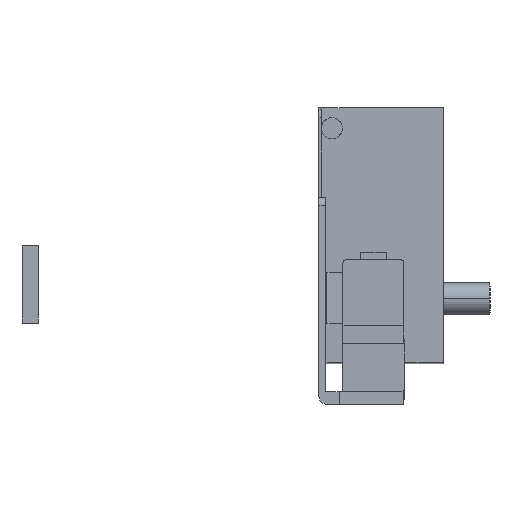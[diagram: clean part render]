
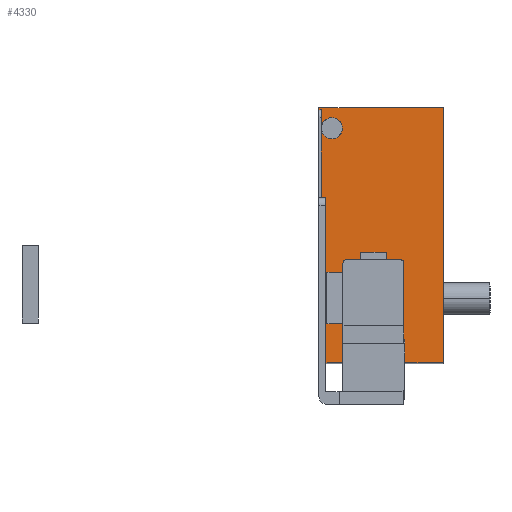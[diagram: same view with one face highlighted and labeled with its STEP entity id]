
A CAD part, front view. The second image highlights one B-rep face of the part: STEP entity #4330.
In plain terms, the highlighted planar face has unit normal (0, -1, 0.007).
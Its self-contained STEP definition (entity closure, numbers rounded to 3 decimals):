
#159 = CIRCLE ( 'NONE', #1425, 1. ) ;
#161 = CIRCLE ( 'NONE', #1426, 1. ) ;
#163 = LINE ( 'NONE', #2033, #164 ) ;
#164 = VECTOR ( 'NONE', #2034, 1000. ) ;
#165 = LINE ( 'NONE', #2035, #166 ) ;
#166 = VECTOR ( 'NONE', #2036, 1000. ) ;
#167 = LINE ( 'NONE', #2037, #168 ) ;
#168 = VECTOR ( 'NONE', #2038, 1000. ) ;
#169 = LINE ( 'NONE', #2039, #170 ) ;
#170 = VECTOR ( 'NONE', #2040, 1000. ) ;
#171 = LINE ( 'NONE', #2041, #172 ) ;
#172 = VECTOR ( 'NONE', #2042, 1000. ) ;
#173 = LINE ( 'NONE', #2043, #174 ) ;
#174 = VECTOR ( 'NONE', #2044, 1000. ) ;
#175 = LINE ( 'NONE', #2045, #176 ) ;
#176 = VECTOR ( 'NONE', #2046, 1000. ) ;
#177 = LINE ( 'NONE', #2047, #178 ) ;
#178 = VECTOR ( 'NONE', #2048, 1000. ) ;
#386 = FACE_OUTER_BOUND ( 'NONE', #3469, .T. ) ;
#583 = DIRECTION ( 'NONE',  ( 0., 0.007, 1. ) ) ;
#585 = CARTESIAN_POINT ( 'NONE',  ( 7.25, 370.948, -16.438 ) ) ;
#600 = DIRECTION ( 'NONE',  ( 0., 0.007, 1. ) ) ;
#603 = CARTESIAN_POINT ( 'NONE',  ( 26.75, 370.948, -16.438 ) ) ;
#668 = CARTESIAN_POINT ( 'NONE',  ( 38.8, 371.346, 42.873 ) ) ;
#683 = CARTESIAN_POINT ( 'NONE',  ( 26.75, 370.814, -36.566 ) ) ;
#694 = CARTESIAN_POINT ( 'NONE',  ( 26.75, 370.842, -32.283 ) ) ;
#712 = CARTESIAN_POINT ( 'NONE',  ( 7.25, 370.814, -36.566 ) ) ;
#776 = CARTESIAN_POINT ( 'NONE',  ( 38.8, 370.814, -36.566 ) ) ;
#799 = CARTESIAN_POINT ( 'NONE',  ( 7.25, 370.842, -32.283 ) ) ;
#863 = EDGE_CURVE ( 'NONE', #5012, #4905, #3672, .T. ) ;
#894 = EDGE_CURVE ( 'NONE', #5307, #5199, #3732, .T. ) ;
#1030 = EDGE_CURVE ( 'NONE', #5214, #5225, #3956, .T. ) ;
#1036 = EDGE_CURVE ( 'NONE', #5243, #5330, #3965, .T. ) ;
#1259 = EDGE_CURVE ( 'NONE', #5012, #5225, #159, .T. ) ;
#1260 = EDGE_CURVE ( 'NONE', #5330, #4905, #161, .T. ) ;
#1262 = EDGE_CURVE ( 'NONE', #5121, #5136, #163, .T. ) ;
#1263 = EDGE_CURVE ( 'NONE', #5136, #5123, #165, .T. ) ;
#1264 = EDGE_CURVE ( 'NONE', #5153, #5123, #167, .T. ) ;
#1265 = EDGE_CURVE ( 'NONE', #5153, #5243, #169, .T. ) ;
#1266 = EDGE_CURVE ( 'NONE', #5214, #5307, #171, .T. ) ;
#1267 = EDGE_CURVE ( 'NONE', #5199, #5152, #173, .T. ) ;
#1268 = EDGE_CURVE ( 'NONE', #5156, #5152, #175, .T. ) ;
#1269 = EDGE_CURVE ( 'NONE', #5121, #5156, #177, .T. ) ;
#1425 = AXIS2_PLACEMENT_3D ( 'NONE', #2025, #2026, #2027 ) ;
#1426 = AXIS2_PLACEMENT_3D ( 'NONE', #2028, #2029, #2030 ) ;
#1515 = AXIS2_PLACEMENT_3D ( 'NONE', #2420, #2421, #2422 ) ;
#2025 = CARTESIAN_POINT ( 'NONE',  ( 25.75, 370.842, -32.283 ) ) ;
#2026 = DIRECTION ( 'NONE',  ( 0., 1., -0.007 ) ) ;
#2027 = DIRECTION ( 'NONE',  ( 0., 0.007, 1. ) ) ;
#2028 = CARTESIAN_POINT ( 'NONE',  ( 8.25, 370.842, -32.283 ) ) ;
#2029 = DIRECTION ( 'NONE',  ( 0., 1., -0.007 ) ) ;
#2030 = DIRECTION ( 'NONE',  ( 0., 0.007, 1. ) ) ;
#2033 = CARTESIAN_POINT ( 'NONE',  ( 8., 370.747, -46.482 ) ) ;
#2034 = DIRECTION ( 'NONE',  ( 0., -0.007, -1. ) ) ;
#2035 = CARTESIAN_POINT ( 'NONE',  ( 2.5, 370.895, -24.483 ) ) ;
#2036 = DIRECTION ( 'NONE',  ( -1., 0., 0. ) ) ;
#2037 = CARTESIAN_POINT ( 'NONE',  ( 0., 370.747, -46.482 ) ) ;
#2038 = DIRECTION ( 'NONE',  ( 0., 0.007, 1. ) ) ;
#2039 = CARTESIAN_POINT ( 'NONE',  ( 7.25, 370.814, -36.566 ) ) ;
#2040 = DIRECTION ( 'NONE',  ( 1., 0., 0. ) ) ;
#2041 = CARTESIAN_POINT ( 'NONE',  ( 38.8, 370.814, -36.566 ) ) ;
#2042 = DIRECTION ( 'NONE',  ( 1., 0., 0. ) ) ;
#2043 = CARTESIAN_POINT ( 'NONE',  ( 38.8, 371.346, 42.873 ) ) ;
#2044 = DIRECTION ( 'NONE',  ( -1., 0., 0. ) ) ;
#2045 = CARTESIAN_POINT ( 'NONE',  ( 0., 370.747, -46.482 ) ) ;
#2046 = DIRECTION ( 'NONE',  ( 0., 0.007, 1. ) ) ;
#2047 = CARTESIAN_POINT ( 'NONE',  ( 2.5, 371.002, -8.483 ) ) ;
#2048 = DIRECTION ( 'NONE',  ( -1., 0., 0. ) ) ;
#2419 = PLANE ( 'NONE',  #1515 ) ;
#2420 = CARTESIAN_POINT ( 'NONE',  ( 38.8, 370.747, -46.482 ) ) ;
#2421 = DIRECTION ( 'NONE',  ( 0., -1., 0.007 ) ) ;
#2422 = DIRECTION ( 'NONE',  ( 0., 0.007, 1. ) ) ;
#2711 = CARTESIAN_POINT ( 'NONE',  ( 8.25, 370.849, -31.283 ) ) ;
#2743 = CARTESIAN_POINT ( 'NONE',  ( 25.75, 370.849, -31.283 ) ) ;
#2780 = CARTESIAN_POINT ( 'NONE',  ( 8., 371.002, -8.483 ) ) ;
#2782 = CARTESIAN_POINT ( 'NONE',  ( 0., 370.895, -24.483 ) ) ;
#2795 = CARTESIAN_POINT ( 'NONE',  ( 8., 370.895, -24.483 ) ) ;
#2811 = CARTESIAN_POINT ( 'NONE',  ( 0., 371.346, 42.873 ) ) ;
#2812 = CARTESIAN_POINT ( 'NONE',  ( 0., 370.814, -36.566 ) ) ;
#2815 = CARTESIAN_POINT ( 'NONE',  ( 0., 371.002, -8.483 ) ) ;
#3341 = ORIENTED_EDGE ( 'NONE', *, *, #1262, .T. ) ;
#3342 = ORIENTED_EDGE ( 'NONE', *, *, #1263, .T. ) ;
#3343 = ORIENTED_EDGE ( 'NONE', *, *, #1264, .F. ) ;
#3344 = ORIENTED_EDGE ( 'NONE', *, *, #1265, .T. ) ;
#3345 = ORIENTED_EDGE ( 'NONE', *, *, #1036, .T. ) ;
#3346 = ORIENTED_EDGE ( 'NONE', *, *, #1260, .T. ) ;
#3347 = ORIENTED_EDGE ( 'NONE', *, *, #863, .F. ) ;
#3348 = ORIENTED_EDGE ( 'NONE', *, *, #1259, .T. ) ;
#3349 = ORIENTED_EDGE ( 'NONE', *, *, #1030, .F. ) ;
#3350 = ORIENTED_EDGE ( 'NONE', *, *, #1266, .T. ) ;
#3351 = ORIENTED_EDGE ( 'NONE', *, *, #894, .T. ) ;
#3352 = ORIENTED_EDGE ( 'NONE', *, *, #1267, .T. ) ;
#3353 = ORIENTED_EDGE ( 'NONE', *, *, #1268, .F. ) ;
#3354 = ORIENTED_EDGE ( 'NONE', *, *, #1269, .F. ) ;
#3469 = EDGE_LOOP ( 'NONE', ( #3341, #3342, #3343, #3344, #3345, #3346, #3347, #3348, #3349, #3350, #3351, #3352, #3353, #3354 ) ) ;
#3672 = LINE ( 'NONE', #5086, #3673 ) ;
#3673 = VECTOR ( 'NONE', #5085, 1000. ) ;
#3732 = LINE ( 'NONE', #4986, #3733 ) ;
#3733 = VECTOR ( 'NONE', #4984, 1000. ) ;
#3956 = LINE ( 'NONE', #603, #3957 ) ;
#3957 = VECTOR ( 'NONE', #600, 1000. ) ;
#3965 = LINE ( 'NONE', #585, #3967 ) ;
#3967 = VECTOR ( 'NONE', #583, 1000. ) ;
#4330 = ADVANCED_FACE ( 'NONE', ( #386 ), #2419, .T. ) ;
#4905 = VERTEX_POINT ( 'NONE', #2711 ) ;
#4984 = DIRECTION ( 'NONE',  ( 0., 0.007, 1. ) ) ;
#4986 = CARTESIAN_POINT ( 'NONE',  ( 38.8, 370.747, -46.482 ) ) ;
#5012 = VERTEX_POINT ( 'NONE', #2743 ) ;
#5085 = DIRECTION ( 'NONE',  ( -1., 0., 0. ) ) ;
#5086 = CARTESIAN_POINT ( 'NONE',  ( 26.75, 370.849, -31.283 ) ) ;
#5121 = VERTEX_POINT ( 'NONE', #2780 ) ;
#5123 = VERTEX_POINT ( 'NONE', #2782 ) ;
#5136 = VERTEX_POINT ( 'NONE', #2795 ) ;
#5152 = VERTEX_POINT ( 'NONE', #2811 ) ;
#5153 = VERTEX_POINT ( 'NONE', #2812 ) ;
#5156 = VERTEX_POINT ( 'NONE', #2815 ) ;
#5199 = VERTEX_POINT ( 'NONE', #668 ) ;
#5214 = VERTEX_POINT ( 'NONE', #683 ) ;
#5225 = VERTEX_POINT ( 'NONE', #694 ) ;
#5243 = VERTEX_POINT ( 'NONE', #712 ) ;
#5307 = VERTEX_POINT ( 'NONE', #776 ) ;
#5330 = VERTEX_POINT ( 'NONE', #799 ) ;
